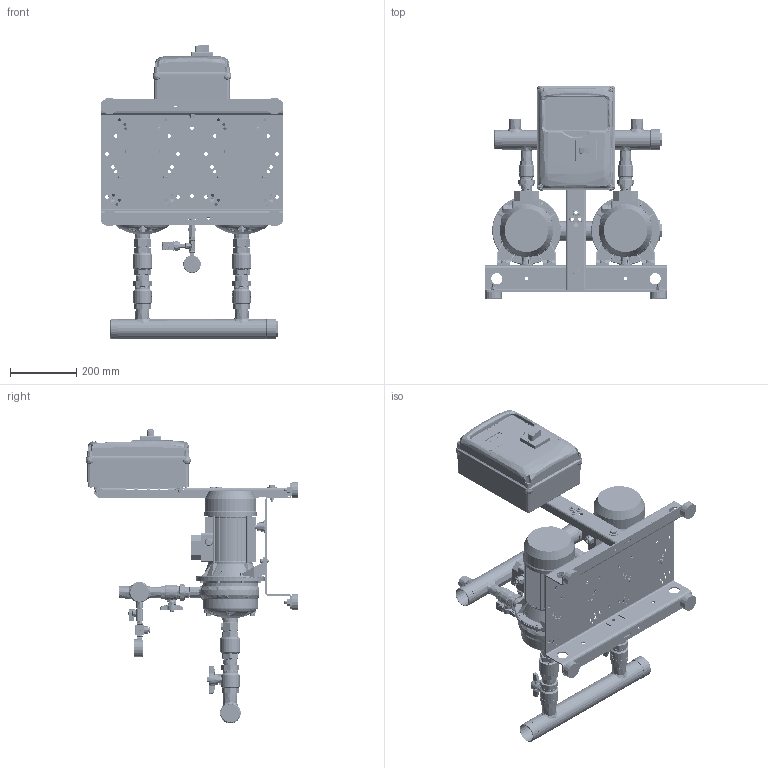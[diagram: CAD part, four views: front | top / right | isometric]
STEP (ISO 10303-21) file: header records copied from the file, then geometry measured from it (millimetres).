
FILE_DESCRIPTION((''),'2;1');
FILE_NAME('2GP_2CDX_120-20_REV5_ASM','2025-02-04T18:32:00',('Utente'),('"Ebara Pumps Europe S.p.A"'),'CREO PARAMETRIC BY PTC INC, 2022124','CREO PARAMETRIC BY PTC INC, 2022124','');
FILE_SCHEMA(('AUTOMOTIVE_DESIGN { 1 0 10303 214 1 1 1 1 }'));
Products named in the file (39): 62508_275562936; CALOTTA_F_A304_DN50_369800820; VAL_INT_MF-B_OTN_CIM346_DN32; VAL_INT_M-F-3_OTN_CIM346_DN32_ASM; VAL-NR-FF-OTN-CIM30-DN32; VAL_NR_F-F_OTN_CIM30_DN32_ASM; NIPPLO-ALIM_OT_DN32_361910051; TAPPO_M_OT_1-2_380000878; 3IEP_2CDX_120-20_IE3; EP_2CDX_120-20_ASM; VAL_INT_MF-B_OTN_CIM346_DN25; VAL_INT_M-F-3_OTN_CIM346_DN25_ASM; RONDEL-P_FE_ZN_UNI6592_M8; DADO_AUTOAGG_M8_ESAG; VITI_TE_ISO4017_M8_L20; 62510_275562942; TAPPO-SALVAFIL_D31; VAL_INT_MF_OTN_CIM012_DN8; NIPPLO_OTG_8_380000861; RACC-T_OTG_DN8_380000880; MAN_RAD_D50_10BAR_361600160; BASE_2GP_I300-B300_DNRV; MONTANTE_H600_271472877; PIEDINO_CIL_369650010; RONDEL-P_FE_ZN_UNI6592_M10; DADI_NORM_ISO4032_FE_ZN_M10; RONDEL-P_ZN_UNI6593_M10X30X2-5; VITI_TE_ISO4017_M10_L45; TRAVERSO_MONT_L200_271472882; RONDEL-P_FE_ZN_UNI6593_M6X18X2; RONDEL-P_FE_ZN_UNI6592_M6; VITI_TE_ISO4017_M6_L20; DADI_NORM_ISO4032_FE_ZN_M6; DADO_AUTOAGG_M10_ESAG; DNRV_2P_I300-B300_H600-Q220X300_ASM; COM_EP-PRO_2T_7-5_KW_362334215; PG_PVC_D10-5_380000891; TRASD_16BAR_460500024; 2GP_2CDX_120-20_REV5_ASM
Assembly tree (83 placements, depth 3):
  2GP_2CDX_120-20_REV5_ASM
    62508_275562936
    CALOTTA_F_A304_DN50_369800820  x2
    VAL_INT_M-F-3_OTN_CIM346_DN32_ASM  x2
      VAL_INT_MF-B_OTN_CIM346_DN32
    VAL_NR_F-F_OTN_CIM30_DN32_ASM  x2
      VAL-NR-FF-OTN-CIM30-DN32
    NIPPLO-ALIM_OT_DN32_361910051  x2
    TAPPO_M_OT_1-2_380000878  x2
    EP_2CDX_120-20_ASM  x2
      3IEP_2CDX_120-20_IE3
    VAL_INT_M-F-3_OTN_CIM346_DN25_ASM  x2
      VAL_INT_MF-B_OTN_CIM346_DN25
    RONDEL-P_FE_ZN_UNI6592_M8  x4
    DADO_AUTOAGG_M8_ESAG  x4
    VITI_TE_ISO4017_M8_L20  x4
    62510_275562942
    TAPPO-SALVAFIL_D31  x2
    VAL_INT_MF_OTN_CIM012_DN8
    NIPPLO_OTG_8_380000861
    RACC-T_OTG_DN8_380000880
    MAN_RAD_D50_10BAR_361600160
    DNRV_2P_I300-B300_H600-Q220X300_ASM
      BASE_2GP_I300-B300_DNRV
      MONTANTE_H600_271472877
      PIEDINO_CIL_369650010  x4
      RONDEL-P_FE_ZN_UNI6592_M10  x4
      DADI_NORM_ISO4032_FE_ZN_M10  x4
      RONDEL-P_ZN_UNI6593_M10X30X2-5
      VITI_TE_ISO4017_M10_L45
      TRAVERSO_MONT_L200_271472882  x2
      RONDEL-P_FE_ZN_UNI6593_M6X18X2  x8
      RONDEL-P_FE_ZN_UNI6592_M6  x4
      VITI_TE_ISO4017_M6_L20  x4
      DADI_NORM_ISO4032_FE_ZN_M6  x4
      DADO_AUTOAGG_M10_ESAG
    COM_EP-PRO_2T_7-5_KW_362334215
    PG_PVC_D10-5_380000891  x3
    TRASD_16BAR_460500024
Bounding box: 550 x 644.45 x 893.45 mm (x, y, z)
Volume: 12359920.6 mm3; surface area: 3361618 mm2
Topology: 1351 solids, 1486 shells, 21050 faces, 53433 edges, 35552 vertices
Faces by surface type: plane 14016, cylinder 3205, cone 1320, extrusion 943, bspline 869, torus 608, sphere 87, revolution 2
Entity records: 938725 total; most frequent: CARTESIAN_POINT 293149, ORIENTED_EDGE 79417, DIRECTION 74303, PRESENTATION_STYLE_ASSIGNMENT 51579, STYLED_ITEM 42110, EDGE_CURVE 40676, CURVE_STYLE 38632, VECTOR 30054
